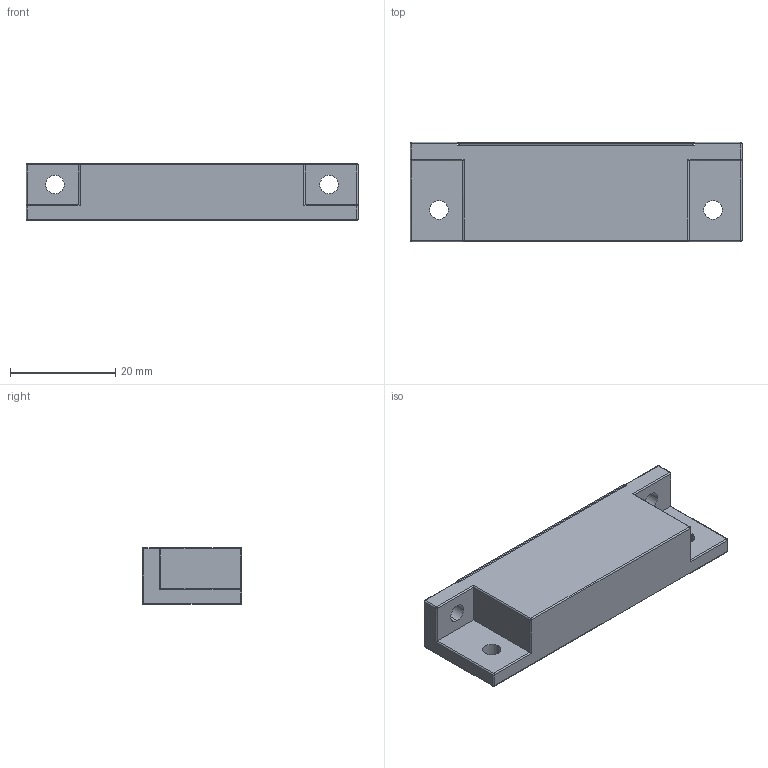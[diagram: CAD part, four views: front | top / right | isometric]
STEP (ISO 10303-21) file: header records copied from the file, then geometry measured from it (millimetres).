
FILE_DESCRIPTION (( 'STEP AP214' ), '1' );
FILE_NAME ('M340.STEP', '2020-08-25T07:31:19', ( '' ), ( '' ), 'SwSTEP 2.0', 'SolidWorks 2019', '' );
FILE_SCHEMA (( 'AUTOMOTIVE_DESIGN' ));
Length unit declared in the file: millimetre
Products named in the file (4): 1M35 11 00 000P_PPOm_NERO_nuovo fornitore; M340; 1M34 00 00 0000_nuovo fornitore_1M34 20 00 0000; MFP040016008SM
Assembly tree (3 placements, depth 2):
  M340
    1M34 00 00 0000_nuovo fornitore_1M34 20 00 0000
    MFP040016008SM
    1M35 11 00 000P_PPOm_NERO_nuovo fornitore
Bounding box: 63 x 18.8 x 10.9 mm (x, y, z)
Volume: 10017.8 mm3; surface area: 9094.2 mm2
Topology: 3 solids, 3 shells, 136 faces, 318 edges, 170 vertices
Faces by surface type: cylinder 58, plane 50, sphere 24, torus 4
Entity records: 3800 total; most frequent: DIRECTION 688, CARTESIAN_POINT 624, ORIENTED_EDGE 588, EDGE_CURVE 294, AXIS2_PLACEMENT_3D 258, VECTOR 172, LINE 172, VERTEX_POINT 170
